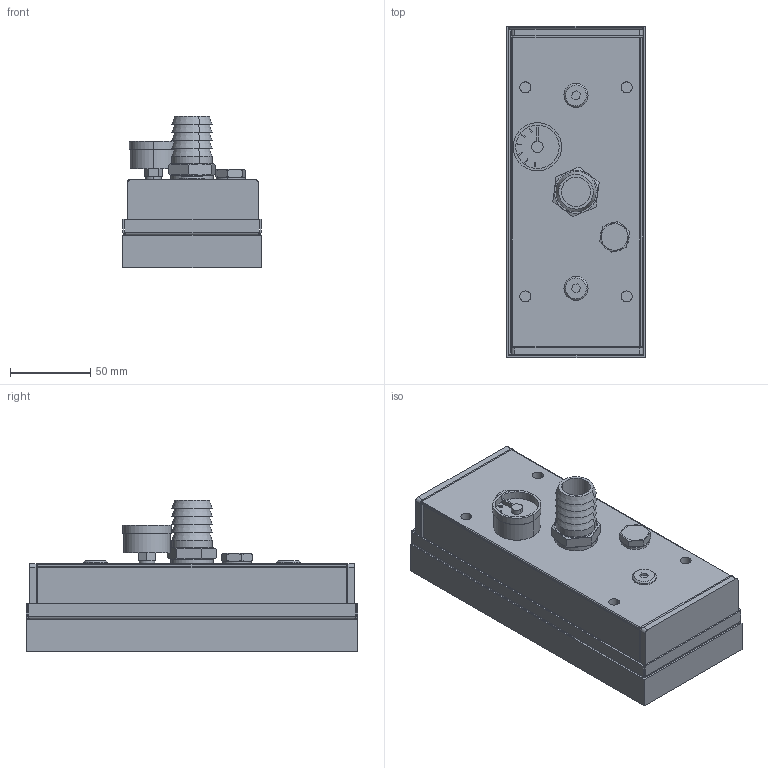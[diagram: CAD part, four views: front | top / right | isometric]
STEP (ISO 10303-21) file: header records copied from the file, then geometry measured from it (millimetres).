
FILE_DESCRIPTION (( 'STEP AP214' ), '1' );
FILE_NAME ('9671 020 010.STEP', '2012-09-03T12:56:02', ( 'cad' ), ( 'Microsoft' ), 'SwSTEP 2.0', 'SolidWorks 2012', '' );
FILE_SCHEMA (( 'AUTOMOTIVE_DESIGN' ));
Length unit declared in the file: millimetre
Products named in the file (1): 9671 020 010
Bounding box: 86 x 206 x 94 mm (x, y, z)
Volume: 861169.6 mm3; surface area: 110850.6 mm2
Topology: 1 solids, 1 shells, 315 faces, 703 edges, 440 vertices
Faces by surface type: plane 183, cylinder 102, cone 22, bspline 8
Entity records: 11758 total; most frequent: CARTESIAN_POINT 1955, DIRECTION 1481, ORIENTED_EDGE 1406, EDGE_CURVE 703, AXIS2_PLACEMENT_3D 526, VERTEX_POINT 440, LINE 429, VECTOR 429
